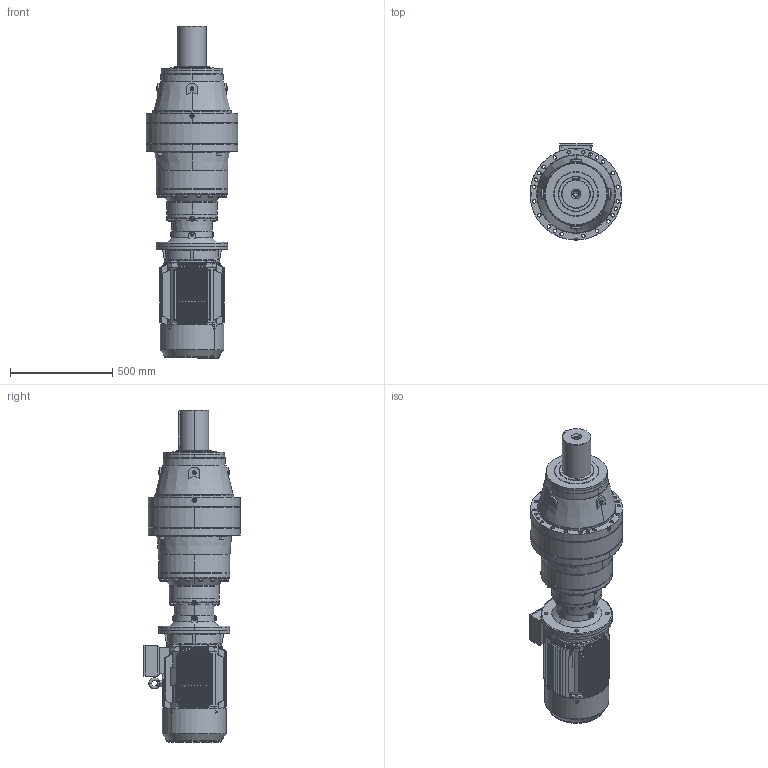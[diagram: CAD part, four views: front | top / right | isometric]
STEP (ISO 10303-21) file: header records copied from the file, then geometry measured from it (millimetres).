
FILE_DESCRIPTION (( 'STEP AP203' ), '1' );
FILE_NAME ('PVL-3503L-HS160L-4.STEP', '2019-05-24T07:26:40', ( '' ), ( '' ), 'SwSTEP 2.0', 'SolidWorks 2012', '' );
FILE_SCHEMA (( 'CONFIG_CONTROL_DESIGN' ));
Products named in the file (18): PVL-3503L-HS160L-4; M3-HS160L-FF-B5; M3-160L-FF-B5; Y2-160-2ª¥--®+_-++ñ; Y2-160_shaft; +¦i-MN2-160_-++ñ; Y2-160L+À+¿(B5)_-++ñ; Eyebolts GB_GB_FASTENER_SCREWS_FRS M12N; Y2-160-4Ý¾6Ý¾8-ª+---®+_-++ñ; +ª+§ªiY2-160ñ»ª­_-++ñ; PNL_3503L_0_0_A16_B5_ML55A_FL17A_0_0_0_0_0_0_0_0_0_0_0_M1; Y2-160-180ñ»ª­®+_-++ñ; Y2-160ñ»ª­+¿_-++ñ; 15160B5_Varsayìlan; FL17A_Varsayìlan; EK3503L_Varsayìlan; ML55A_Varsayìlan; P35_Varsayìlan
Assembly tree (17 placements, depth 5):
  PVL-3503L-HS160L-4
    PNL_3503L_0_0_A16_B5_ML55A_FL17A_0_0_0_0_0_0_0_0_0_0_0_M1
      P35_Varsayìlan
      15160B5_Varsayìlan
      ML55A_Varsayìlan
      EK3503L_Varsayìlan
      FL17A_Varsayìlan
    M3-HS160L-FF-B5
      M3-160L-FF-B5
        +ª+§ªiY2-160ñ»ª­_-++ñ
          Y2-160-180ñ»ª­®+_-++ñ
          Y2-160ñ»ª­+¿_-++ñ
        Y2-160-4Ý¾6Ý¾8-ª+---®+_-++ñ
        Y2-160L+À+¿(B5)_-++ñ
        Eyebolts GB_GB_FASTENER_SCREWS_FRS M12N
        Y2-160-2ª¥--®+_-++ñ
        +¦i-MN2-160_-++ñ
        Y2-160_shaft
Bounding box: 450 x 472 x 1626 mm (x, y, z)
Volume: 91498518 mm3; surface area: 4924248.8 mm2
Topology: 17 solids, 17 shells, 3324 faces, 8754 edges, 5528 vertices
Faces by surface type: plane 1260, cylinder 1219, bspline 503, cone 239, torus 63, sphere 40
Entity records: 155267 total; most frequent: CARTESIAN_POINT 75373, ORIENTED_EDGE 17204, DIRECTION 15068, EDGE_CURVE 8602, AXIS2_PLACEMENT_3D 5758, VERTEX_POINT 5513, EDGE_LOOP 3827, LINE 3552
